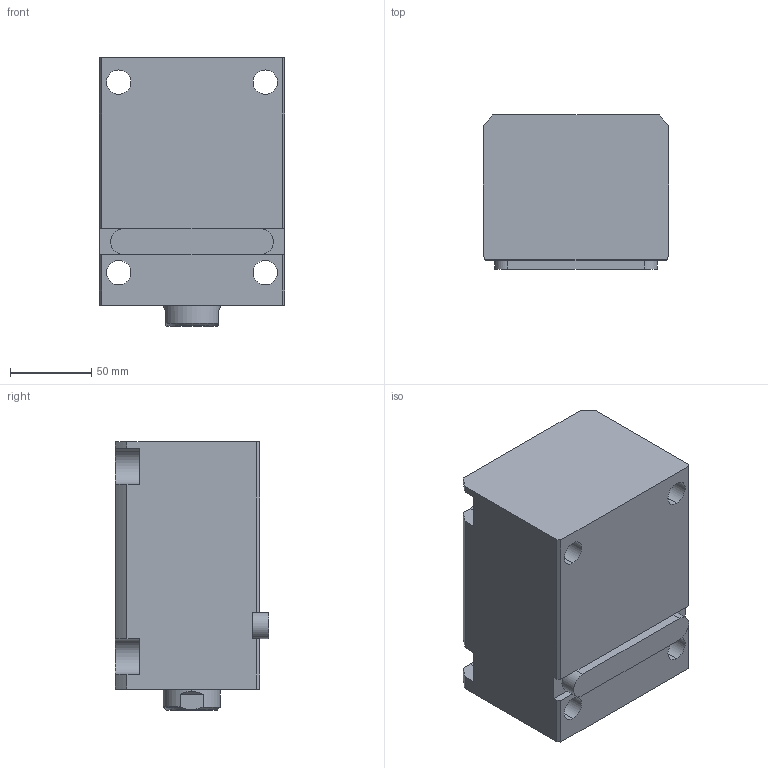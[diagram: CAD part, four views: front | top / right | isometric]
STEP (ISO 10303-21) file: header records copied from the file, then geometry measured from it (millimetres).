
FILE_DESCRIPTION (( 'STEP AP214' ), '1' );
FILE_NAME ('chtb-la63x85n_asm.STEP', '2018-05-02T03:49:32', ( 'Windows' ), ( 'Microsoft' ), 'SwSTEP 2.0', 'SolidWorks 2015', '' );
FILE_SCHEMA (( 'AUTOMOTIVE_DESIGN' ));
Length unit declared in the file: millimetre
Products named in the file (5): chtb-la63x85n_asm; CHTB-LA63X85NBT; CHTB-LA63PJ; CHTB63X85NHSG; CHTB-63QG
Assembly tree (4 placements, depth 2):
  chtb-la63x85n_asm
    CHTB-63QG
    CHTB63X85NHSG
    CHTB-LA63PJ
    CHTB-LA63X85NBT
Bounding box: 114 x 94.5 x 165 mm (x, y, z)
Volume: 1279920.6 mm3; surface area: 176826.6 mm2
Topology: 4 solids, 4 shells, 174 faces, 510 edges, 348 vertices
Faces by surface type: cylinder 98, plane 45, bspline 12, cone 12, torus 7
Entity records: 18199 total; most frequent: CARTESIAN_POINT 13678, ORIENTED_EDGE 1008, DIRECTION 778, EDGE_CURVE 504, VERTEX_POINT 348, AXIS2_PLACEMENT_3D 295, EDGE_LOOP 198, VECTOR 188
